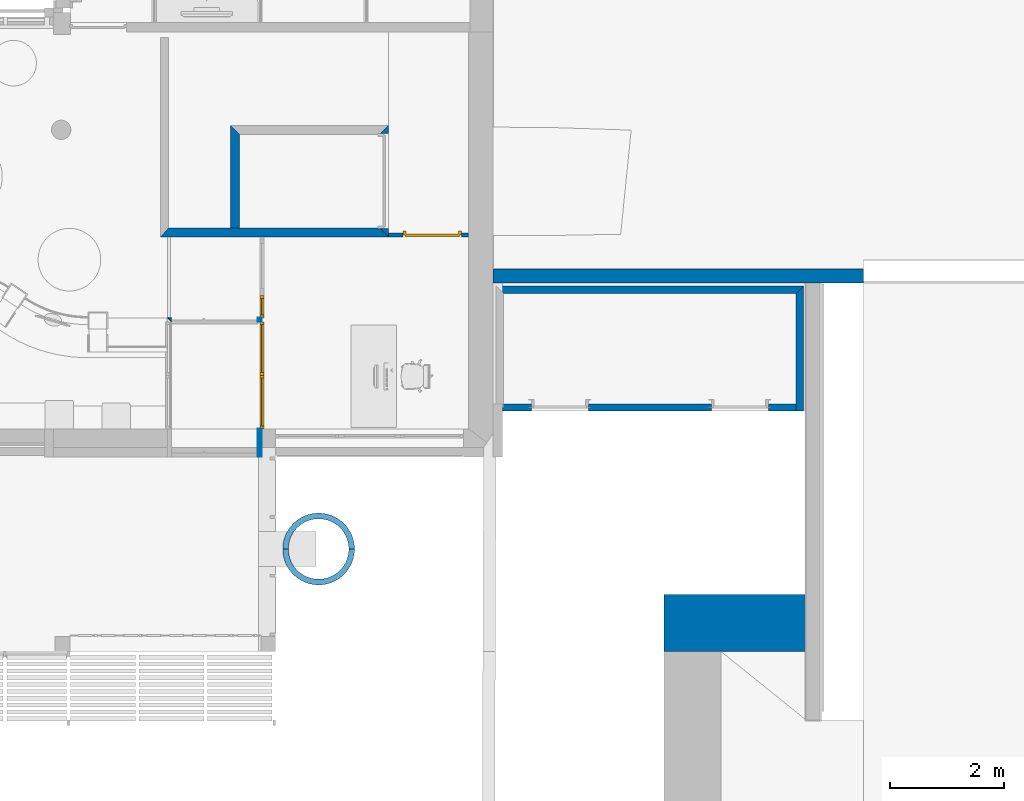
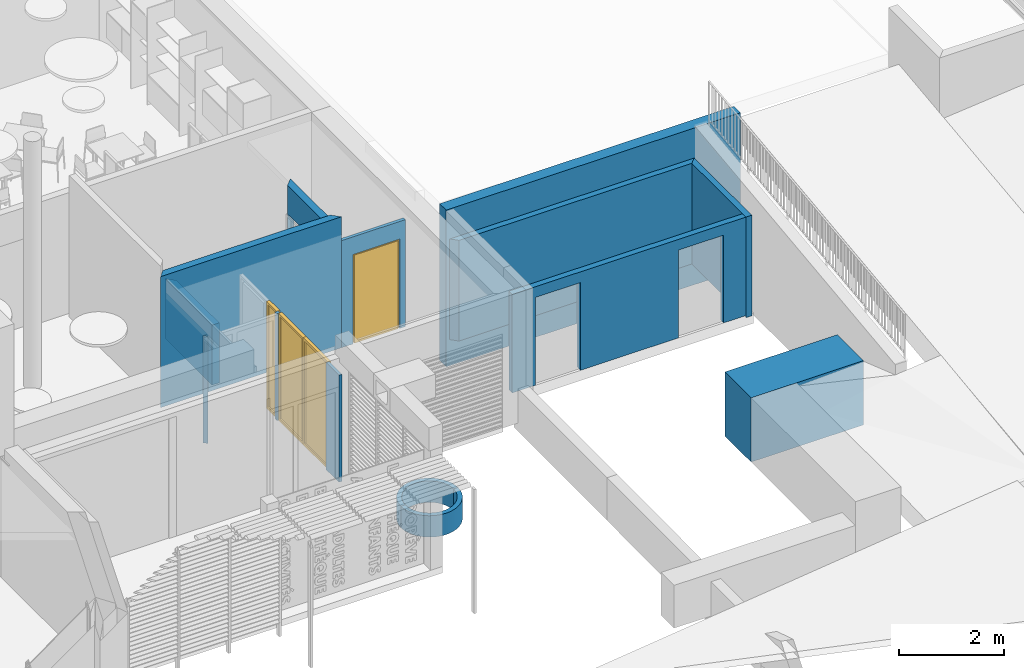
# One storey, part 25 of 64: 13 walls, 3 windows, 1 door, 8 openings.
"""IFC2X3 building model written with IfcOpenShell, lengths in metres."""

from ifc_helpers import new_model, entity, si_unit, converted_unit, derived_unit, direction, frame, frame_2d, origin, origin_2d_with_axis, place, context, subcontext, project, spatial, polyline, circle_curve, parameter, trimmed, segment, composite_curve, rectangle, outline, extrude, faceted_brep, source, transform, mapped, material, material_list, layer, layer_set, layer_usage, type_object, type_shapes, element, fill, save


model = new_model("IFC2X3")

# Units and contexts
model_context = context("Model", 3, precision=1e-05, world=origin(), true_north=direction((6.123031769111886e-17, 1.0)))
body_context = subcontext(model_context, "Body", "Model", "MODEL_VIEW")
ifc_project = project(units=[si_unit("LENGTHUNIT", "METRE"), si_unit("AREAUNIT", "SQUARE_METRE"), si_unit("VOLUMEUNIT", "CUBIC_METRE"), converted_unit("PLANEANGLEUNIT", "DEGREE", entity("IfcRatioMeasure", 0.017453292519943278), si_unit("PLANEANGLEUNIT", "RADIAN"), dimensions=[0, 0, 0, 0, 0, 0, 0]), si_unit("MASSUNIT", "GRAM", prefix="KILO"), derived_unit("MASSDENSITYUNIT", [(si_unit("MASSUNIT", "GRAM", prefix="KILO"), 1), (si_unit("LENGTHUNIT", "METRE"), -3)]), derived_unit("MOMENTOFINERTIAUNIT", [(si_unit("LENGTHUNIT", "METRE"), 4)]), si_unit("TIMEUNIT", "SECOND"), si_unit("FREQUENCYUNIT", "HERTZ"), si_unit("THERMODYNAMICTEMPERATUREUNIT", "DEGREE_CELSIUS"), derived_unit("THERMALTRANSMITTANCEUNIT", [(si_unit("MASSUNIT", "GRAM", prefix="KILO"), 1), (si_unit("THERMODYNAMICTEMPERATUREUNIT", "KELVIN"), -1), (si_unit("TIMEUNIT", "SECOND"), -3)]), derived_unit("THERMALCONDUCTANCEUNIT", [(si_unit("MASSUNIT", "GRAM", prefix="KILO"), 1), (si_unit("LENGTHUNIT", "METRE"), 1), (si_unit("THERMODYNAMICTEMPERATUREUNIT", "KELVIN"), -1), (si_unit("TIMEUNIT", "SECOND"), -3)]), derived_unit("VOLUMETRICFLOWRATEUNIT", [(si_unit("LENGTHUNIT", "METRE"), 3), (si_unit("TIMEUNIT", "SECOND"), -1)]), derived_unit("MASSFLOWRATEUNIT", [(si_unit("MASSUNIT", "GRAM", prefix="KILO"), 1), (si_unit("TIMEUNIT", "SECOND"), -1)]), derived_unit("ROTATIONALFREQUENCYUNIT", [(si_unit("TIMEUNIT", "SECOND"), -1)]), si_unit("ELECTRICCURRENTUNIT", "AMPERE"), si_unit("ELECTRICVOLTAGEUNIT", "VOLT"), si_unit("POWERUNIT", "WATT"), si_unit("FORCEUNIT", "NEWTON", prefix="KILO"), si_unit("ILLUMINANCEUNIT", "LUX"), si_unit("LUMINOUSFLUXUNIT", "LUMEN"), si_unit("LUMINOUSINTENSITYUNIT", "CANDELA"), derived_unit("USERDEFINED", [(si_unit("MASSUNIT", "GRAM", prefix="KILO"), -1), (si_unit("LENGTHUNIT", "METRE"), -2), (si_unit("TIMEUNIT", "SECOND"), 3), (si_unit("LUMINOUSFLUXUNIT", "LUMEN"), 1)]), derived_unit("USERDEFINED", [(si_unit("MASSUNIT", "GRAM", prefix="KILO"), 1), (si_unit("LENGTHUNIT", "METRE"), 3), (si_unit("TIMEUNIT", "SECOND"), -3), (si_unit("ELECTRICCURRENTUNIT", "AMPERE"), -2)]), derived_unit("USERDEFINED", [(si_unit("LENGTHUNIT", "METRE"), 2), (si_unit("TIMEUNIT", "SECOND"), -2)]), derived_unit("SOUNDPOWERUNIT", [(si_unit("MASSUNIT", "GRAM", prefix="KILO"), 1), (si_unit("LENGTHUNIT", "METRE"), 2), (si_unit("TIMEUNIT", "SECOND"), -3)]), derived_unit("SOUNDPRESSUREUNIT", [(si_unit("MASSUNIT", "GRAM", prefix="KILO"), 1), (si_unit("LENGTHUNIT", "METRE"), -1), (si_unit("TIMEUNIT", "SECOND"), -2)]), derived_unit("LINEARVELOCITYUNIT", [(si_unit("LENGTHUNIT", "METRE"), 1), (si_unit("TIMEUNIT", "SECOND"), -1)]), si_unit("PRESSUREUNIT", "PASCAL"), derived_unit("USERDEFINED", [(si_unit("LENGTHUNIT", "METRE"), -2), (si_unit("MASSUNIT", "GRAM", prefix="KILO"), 1), (si_unit("TIMEUNIT", "SECOND"), -2)]), derived_unit("LINEARFORCEUNIT", [(si_unit("MASSUNIT", "GRAM", prefix="KILO"), 1), (si_unit("LENGTHUNIT", "METRE"), 1), (si_unit("TIMEUNIT", "SECOND"), -2), (si_unit("LENGTHUNIT", "METRE"), -1)]), derived_unit("PLANARFORCEUNIT", [(si_unit("MASSUNIT", "GRAM", prefix="KILO"), 1), (si_unit("LENGTHUNIT", "METRE"), 1), (si_unit("TIMEUNIT", "SECOND"), -2), (si_unit("LENGTHUNIT", "METRE"), -2)]), derived_unit("SPECIFICHEATCAPACITYUNIT", [(si_unit("LENGTHUNIT", "METRE"), 2), (si_unit("TIMEUNIT", "SECOND"), -2), (si_unit("THERMODYNAMICTEMPERATUREUNIT", "KELVIN"), -1)]), derived_unit("VAPORPERMEABILITYUNIT", [(si_unit("TIMEUNIT", "SECOND"), 1), (si_unit("LENGTHUNIT", "METRE"), -1)]), derived_unit("DYNAMICVISCOSITYUNIT", [(si_unit("MASSUNIT", "GRAM", prefix="KILO"), 1), (si_unit("LENGTHUNIT", "METRE"), -1), (si_unit("TIMEUNIT", "SECOND"), -1)]), derived_unit("THERMALEXPANSIONCOEFFICIENTUNIT", [(si_unit("THERMODYNAMICTEMPERATUREUNIT", "KELVIN"), -1)])], contexts=[model_context])

# Site, building, storey
site_placement = place(None, origin())
site = spatial("IfcSite", under=ifc_project, at=site_placement, Name="Default", CompositionType="ELEMENT")
building_placement = place(site_placement, origin())
building = spatial("IfcBuilding", under=site, at=building_placement, CompositionType="ELEMENT")
storey_placement = place(building_placement, origin())
storey = spatial("IfcBuildingStorey", under=building, at=storey_placement, Name="REZ-DE-CHAUSSÉE", CompositionType="ELEMENT", Elevation=0.0)

# Walls
ifc_material_1 = material(Name="Appareillage - Pierre taillé")
ifc_layer_1 = layer(ifc_material_1, 0.16)
ifc_layer_set_1 = layer_set([ifc_layer_1], Name="Mur de base:Struct. - Pierre 160")
ifc_layer_usage_1 = layer_usage(ifc_layer_set_1, "AXIS2", "NEGATIVE", 0.08)
wall_type_1 = type_object("IfcWallType", Name="Mur de base:Struct. - Pierre 160", PredefinedType="STANDARD", material=ifc_layer_set_1)
wall_1_placement = place(storey_placement, frame((126.56075228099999, 11.527209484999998, 0.0), z_axis=(0.0, 0.0, 1.0), x_axis=(-1.0, 0.0, 0.0)))
element("IfcWallStandardCase", 1, at=wall_1_placement, inside=storey, type_object=wall_type_1, material=ifc_layer_usage_1, Name="MurExt-011", ObjectType="Mur de base:Struct. - Pierre 160", context=body_context, shape_type="SweptSolid", body=[
    extrude(outline(polyline([(3.860000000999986, -0.0800000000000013), (4.0, 0.07999999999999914), (0.0, 0.07999999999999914), (0.14500000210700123, -0.06500000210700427), (0.15999999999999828, -0.0800000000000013), (2.610000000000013, -0.0800000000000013), (2.7700000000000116, -0.0800000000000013), (3.860000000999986, -0.0800000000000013)])), origin(), (0.0, 0.0, 1.0), 3.06),
])
wall_2_placement = place(storey_placement, frame((123.87075228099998, 11.607209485, 0.0), z_axis=(0.0, 0.0, 1.0), x_axis=(0.0, 1.0, 0.0)))
element("IfcWallStandardCase", 2, at=wall_2_placement, inside=storey, type_object=wall_type_1, material=ifc_layer_usage_1, Name="MurExt-011", ObjectType="Mur de base:Struct. - Pierre 160", context=body_context, shape_type="SweptSolid", body=[
    extrude(outline(polyline([(1.6400000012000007, -0.07999999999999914), (1.8000000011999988, 0.07999999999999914), (0.0, 0.07999999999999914), (0.0, -0.07999999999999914), (1.6400000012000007, -0.07999999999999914)])), origin(), (0.0, 0.0, 1.0), 1.4),
])

# Wall, opening
wall_3_placement = place(storey_placement, frame((126.480752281, 13.4072094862, 0.0), z_axis=(0.0, 0.0, 1.0), x_axis=(0.0, -1.0, 0.0)))
wall_3 = element("IfcWallStandardCase", 3, at=wall_3_placement, inside=storey, type_object=wall_type_1, material=ifc_layer_usage_1, Name="MurExt-012", ObjectType="Mur de base:Struct. - Pierre 160", context=body_context, shape_type="SweptSolid", body=[
    extrude(outline(polyline([(0.15999999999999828, -0.07999999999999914), (1.800000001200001, -0.07999999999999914), (1.9600000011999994, 0.07999999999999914), (0.0, 0.07999999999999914), (0.15999999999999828, -0.07999999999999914)])), origin(), (0.0, 0.0, 1.0), 2.76),
])
opening_1_placement = place(wall_3_placement, frame((13.4072094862, -126.480752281, 0.0), z_axis=(0.0, 0.0, 1.0), x_axis=(0.0, 1.0, 0.0)))
element("IfcOpeningElement", 4, at=opening_1_placement, cuts=wall_3, Name="MurExt-012", ObjectType="Opening", context=body_context, shape_type="SweptSolid", body=[
    extrude(rectangle(XDim=2.09, YDim=1.6700000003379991, at=frame_2d((0.0, 0.0), x_axis=(0.0, 1.0))), frame((126.31755228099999, 12.427209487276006, 1.045), z_axis=(1.0, 0.0, 0.0), x_axis=(0.0, -1.0, 0.0)), (0.0, 0.0, 1.0), 0.3263999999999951),
])

# Wall, opening, door
ifc_material_2 = material(Name="Plâtre - Plaques de plâtre")
ifc_layer_2 = layer(ifc_material_2, 0.013)
ifc_material_3 = material(Name="Isolation - Fibre de verre")
ifc_layer_3 = layer(ifc_material_3, 0.044)
ifc_layer_4 = layer(ifc_material_2, 0.013)
ifc_layer_set_2 = layer_set([ifc_layer_2, ifc_layer_3, ifc_layer_4], Name="Mur de base:ABA cloison 7cm 70")
ifc_layer_usage_2 = layer_usage(ifc_layer_set_2, "AXIS2", "NEGATIVE", 0.034999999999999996)
wall_type_2 = type_object("IfcWallType", Name="Mur de base:ABA cloison 7cm 70", PredefinedType="STANDARD", material=ifc_layer_set_2)
wall_4_placement = place(storey_placement, frame((127.97075227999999, 11.482209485, 0.0), z_axis=(0.0, 0.0, 1.0), x_axis=(-1.0, 0.0, 0.0)))
wall_4 = element("IfcWallStandardCase", 5, at=wall_4_placement, inside=storey, type_object=wall_type_2, material=ifc_layer_usage_2, Name="MurExt-025", ObjectType="Mur de base:ABA cloison 7cm 70", context=body_context, shape_type="SweptSolid", body=[
    extrude(rectangle(XDim=1.4099999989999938, YDim=0.07000000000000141, at=frame_2d((0.7049999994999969, 0.0), x_axis=(-1.0, 0.0))), origin(), (0.0, 0.0, 1.0), 2.4999999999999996),
])
opening_2_placement = place(wall_4_placement, frame((127.97075227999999, 11.482209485, 0.0), z_axis=(0.0, 0.0, 1.0), x_axis=(-1.0, 0.0, 0.0)))
opening_2 = element("IfcOpeningElement", 6, at=opening_2_placement, cuts=wall_4, Name="MurExt-025", ObjectType="Opening", context=body_context, shape_type="SweptSolid", body=[
    extrude(rectangle(XDim=2.09, YDim=1.0300000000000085, at=frame_2d((0.0, 0.0), x_axis=(0.0, 1.0))), frame((127.33075228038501, 11.553609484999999, 1.045), z_axis=(0.0, -1.0, 0.0), x_axis=(-1.0, 0.0, 0.0)), (0.0, 0.0, 1.0), 0.14279999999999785),
])
ifc_material_4 = material(Name="Peinture - Gris clair")
door_style = type_object("IfcDoorStyle", Name="Por-004", ConstructionType="NOTDEFINED", OperationType="SINGLE_SWING_LEFT", ParameterTakesPrecedence=False, Sizeable=False, material=ifc_material_4)
shared_shape_1 = source(origin(), body_context, "Body", "Brep", [
    faceted_brep([(0.0, -0.0714, 0.0), (0.0, -0.0714, 2.09), (1.03, -0.0714, 2.09), (1.03, -0.0714, 0.0), (0.995, -0.0714, 0.0), (0.995, -0.0714, 2.055), (0.03500000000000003, -0.0714, 2.055), (0.03500000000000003, -0.0714, 0.0), (0.0, -0.1414, 0.0), (0.0, -0.1414, 2.09), (1.03, -0.1414, 2.09), (1.03, -0.1414, 0.0), (0.98, -0.1414, 0.0), (0.98, -0.0864, 0.0), (0.995, -0.0864, 0.0), (0.995, -0.0864, 2.055), (0.03500000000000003, -0.0864, 2.055), (0.03500000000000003, -0.0864, 0.0), (0.05, -0.0864, 0.0), (0.05, -0.1414, 0.0), (0.98, -0.1414, 2.04), (0.05, -0.1414, 2.04), (0.98, -0.0864, 2.04), (0.05, -0.0864, 2.04), (0.03500000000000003, -0.046400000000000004, 0.0), (0.995, -0.046400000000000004, 0.0), (0.03500000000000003, -0.046400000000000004, 2.055), (0.995, -0.046400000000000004, 2.055)], [[[0, 1, 2, 3, 4, 5, 6, 7]], [[8, 9, 1, 0]], [[9, 10, 2, 1]], [[10, 11, 3, 2]], [[3, 11, 12, 13, 14, 4]], [[5, 4, 14, 15]], [[6, 5, 15, 16]], [[7, 6, 16, 17]], [[0, 7, 17, 18, 19, 8]], [[19, 8, 9, 10, 11, 12, 20, 21]], [[22, 13, 12, 20]], [[17, 16, 15, 14, 13, 22, 23, 18]], [[18, 23, 21, 19]], [[23, 22, 20, 21]], [[24, 25, 14, 17]], [[24, 26, 27, 25]], [[25, 27, 15, 14]], [[17, 14, 15, 16]], [[26, 24, 17, 16]], [[27, 26, 16, 15]]]),
])
type_shapes(door_style, [shared_shape_1])
door_placement = place(opening_2_placement, frame((127.84575228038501, 11.410809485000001, 0.0), z_axis=(0.0, 0.0, 1.0), x_axis=(-1.0, 0.0, 0.0)))
door = element("IfcDoor", 7, at=door_placement, inside=storey, type_object=door_style, material=ifc_material_4, Name="Por-004 25692:Por-004 25692", ObjectType="Por-004 25692:Por-004 25692", OverallHeight=2.09, OverallWidth=1.0300000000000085, context=body_context, shape_type="MappedRepresentation", body=[
    mapped(shared_shape_1, transform((0.0, 0.0, 0.0), scale=1.0)),
])
fill(opening_2, door)

# Wall, openings, windows
wall_5_placement = place(storey_placement, frame((124.30575228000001, 10.027209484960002, 0.0), z_axis=(0.0, 0.0, 1.0), x_axis=(0.0, -1.0, 0.0)))
wall_5 = element("IfcWallStandardCase", 8, at=wall_5_placement, inside=storey, type_object=wall_type_2, material=ifc_layer_usage_2, Name="MurExt-025", ObjectType="Mur de base:ABA cloison 7cm 70", context=body_context, shape_type="SweptSolid", body=[
    extrude(rectangle(XDim=0.06999999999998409, YDim=3.8600000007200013, at=frame_2d((0.5100000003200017, 0.0), x_axis=(0.0, -1.0))), origin(), (0.0, 0.0, 1.0), 2.4999999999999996),
])
opening_3_placement = place(wall_5_placement, frame((10.027209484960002, -124.30575228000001, 0.0), z_axis=(0.0, 0.0, 1.0), x_axis=(0.0, 1.0, 0.0)))
opening_3 = element("IfcOpeningElement", 9, at=opening_3_placement, cuts=wall_5, Name="MurExt-025", ObjectType="Opening", context=body_context, shape_type="SweptSolid", body=[
    extrude(rectangle(XDim=2.4999999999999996, YDim=0.9399999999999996, at=frame_2d((-5.551115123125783e-16, 0.0), x_axis=(0.0, 1.0))), frame((124.23505228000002, 8.54720948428, 1.2499999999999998), z_axis=(1.0, 0.0, 0.0), x_axis=(0.0, 1.0, 0.0)), (0.0, 0.0, 1.0), 0.14139999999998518),
])
opening_4_placement = place(wall_5_placement, frame((10.027209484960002, -124.30575228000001, 0.0), z_axis=(0.0, 0.0, 1.0), x_axis=(0.0, 1.0, 0.0)))
opening_4 = element("IfcOpeningElement", 10, at=opening_4_placement, cuts=wall_5, Name="MurExt-025", ObjectType="Opening", context=body_context, shape_type="SweptSolid", body=[
    extrude(rectangle(XDim=2.4999999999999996, YDim=0.9399999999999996, at=frame_2d((-5.551115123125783e-16, 0.0), x_axis=(0.0, 1.0))), frame((124.23505228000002, 9.487209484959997, 1.2499999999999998), z_axis=(1.0, 0.0, 0.0), x_axis=(0.0, 1.0, 0.0)), (0.0, 0.0, 1.0), 0.14139999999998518),
])
opening_5_placement = place(wall_5_placement, frame((10.027209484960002, -124.30575228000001, 0.0), z_axis=(0.0, 0.0, 1.0), x_axis=(0.0, 1.0, 0.0)))
element("IfcOpeningElement", 11, at=opening_5_placement, cuts=wall_5, Name="MurExt-025", ObjectType="Opening", context=body_context, shape_type="SweptSolid", body=[
    extrude(rectangle(XDim=2.4999999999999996, YDim=1.0299999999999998, at=frame_2d((0.0, 0.0), x_axis=(0.0, 1.0))), frame((124.23505228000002, 10.93220948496, 1.2499999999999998), z_axis=(1.0, 0.0, 0.0), x_axis=(0.0, 1.0, 0.0)), (0.0, 0.0, 1.0), 0.14139999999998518),
])
opening_6_placement = place(wall_5_placement, frame((10.027209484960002, -124.30575228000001, 0.0), z_axis=(0.0, 0.0, 1.0), x_axis=(0.0, 1.0, 0.0)))
opening_6 = element("IfcOpeningElement", 12, at=opening_6_placement, cuts=wall_5, Name="MurExt-025", ObjectType="Opening", context=body_context, shape_type="SweptSolid", body=[
    extrude(rectangle(XDim=2.4999999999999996, YDim=0.3900000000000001, at=frame_2d((-1.0824674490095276e-15, 0.0), x_axis=(0.0, 1.0))), frame((124.23505228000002, 10.22220948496, 1.2499999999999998), z_axis=(1.0, 0.0, 0.0), x_axis=(0.0, 1.0, 0.0)), (0.0, 0.0, 1.0), 0.14139999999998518),
])
ifc_material_5 = material(Name="Transp. - Verre clair (rapide)")
ifc_material_6 = material(Name="Peinture - Anthracite")
ifc_material_list = material_list([ifc_material_5, ifc_material_6])
window_style_1 = type_object("IfcWindowStyle", Name="Fen-007", ConstructionType="NOTDEFINED", OperationType="NOTDEFINED", ParameterTakesPrecedence=False, Sizeable=False, material=ifc_material_list)
shared_shape_2 = source(origin(), body_context, "Body", "SweptSolid", [
    extrude(rectangle(XDim=0.8399999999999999, YDim=0.010000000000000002, at=frame_2d((0.0, -4.336808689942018e-18), x_axis=(1.0, 0.0))), frame((0.47, 0.03570000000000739, 0.0601)), (0.0, 0.0, 1.0), 2.3899000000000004),
    extrude(outline(polyline([(-1.2499999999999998, -0.47), (1.2499999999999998, -0.47), (1.2499999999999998, 0.47), (-1.2499999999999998, 0.47), (-1.2499999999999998, -0.47)]), holes=[polyline([(1.1899999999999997, 0.41999999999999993), (1.19, -0.41999999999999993), (-1.2000000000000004, -0.41999999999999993), (-1.2000000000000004, 0.41999999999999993), (1.1899999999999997, 0.41999999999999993)])]), frame((0.47, 0.0007000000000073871, 1.2499999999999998), z_axis=(0.0, 1.0, 0.0), x_axis=(0.0, 0.0, -1.0)), (0.0, 0.0, 1.0), 0.07),
])
type_shapes(window_style_1, [shared_shape_2])
window_1_placement = place(opening_3_placement, frame((124.37645228, 8.077209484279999, 0.0), z_axis=(0.0, 0.0, 1.0), x_axis=(0.0, 1.0, 0.0)))
window_1 = element("IfcWindow", 13, at=window_1_placement, inside=storey, type_object=window_style_1, material=ifc_material_list, Name="Fen-007 27156:Fen-007 27156", ObjectType="Fen-007 27156:Fen-007 27156", OverallHeight=2.4999999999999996, OverallWidth=0.9399999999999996, context=body_context, shape_type="MappedRepresentation", body=[
    mapped(shared_shape_2, transform((0.0, 0.0, 0.0), scale=1.0)),
])
fill(opening_3, window_1)
window_2_placement = place(opening_4_placement, frame((124.37645228, 9.017209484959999, 0.0), z_axis=(0.0, 0.0, 1.0), x_axis=(0.0, 1.0, 0.0)))
window_2 = element("IfcWindow", 14, at=window_2_placement, inside=storey, type_object=window_style_1, material=ifc_material_list, Name="Fen-007 27156:Fen-007 27156", ObjectType="Fen-007 27156:Fen-007 27156", OverallHeight=2.4999999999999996, OverallWidth=0.9399999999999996, context=body_context, shape_type="MappedRepresentation", body=[
    mapped(shared_shape_2, transform((0.0, 0.0, 0.0), scale=1.0)),
])
fill(opening_4, window_2)
window_style_2 = type_object("IfcWindowStyle", Name="Fen-007", ConstructionType="NOTDEFINED", OperationType="NOTDEFINED", ParameterTakesPrecedence=False, Sizeable=False, material=ifc_material_list)
shared_shape_3 = source(origin(), body_context, "Body", "SweptSolid", [
    extrude(rectangle(XDim=0.29, YDim=0.010000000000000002, at=origin_2d_with_axis()), frame((0.19499999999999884, 0.0357, 0.0601)), (0.0, 0.0, 1.0), 2.3899000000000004),
    extrude(outline(polyline([(-1.2499999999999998, -0.195), (1.2499999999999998, -0.195), (1.2499999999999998, 0.195), (-1.2499999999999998, 0.195), (-1.2499999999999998, -0.195)]), holes=[polyline([(1.1899999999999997, 0.145), (1.19, -0.145), (-1.2000000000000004, -0.145), (-1.2000000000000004, 0.145), (1.1899999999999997, 0.145)])]), frame((0.19499999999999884, 0.0007000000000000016, 1.2499999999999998), z_axis=(0.0, 1.0, 0.0), x_axis=(0.0, 0.0, -1.0)), (0.0, 0.0, 1.0), 0.07),
])
type_shapes(window_style_2, [shared_shape_3])
window_3_placement = place(opening_6_placement, frame((124.37645228, 10.027209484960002, 0.0), z_axis=(0.0, 0.0, 1.0), x_axis=(0.0, 1.0, 0.0)))
window_3 = element("IfcWindow", 15, at=window_3_placement, inside=storey, type_object=window_style_2, material=ifc_material_list, Name="Fen-007 27808:Fen-007 27808", ObjectType="Fen-007 27808:Fen-007 27808", OverallHeight=2.4999999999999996, OverallWidth=0.3900000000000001, context=body_context, shape_type="MappedRepresentation", body=[
    mapped(shared_shape_3, transform((0.0, 0.0, 0.0), scale=1.0)),
])
fill(opening_6, window_3)

# Walls
wall_6_placement = place(storey_placement, frame((122.68075228, 9.992209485, 0.0)))
element("IfcWallStandardCase", 16, at=wall_6_placement, inside=storey, type_object=wall_type_2, material=ifc_layer_usage_2, Name="MurExt-022", ObjectType="Mur de base:ABA cloison 7cm 70", context=body_context, shape_type="SweptSolid", body=[
    extrude(outline(polyline([(-0.04357499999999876, -0.01749999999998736), (-0.009275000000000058, -0.01749999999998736), (0.02642500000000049, -0.01749999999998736), (0.02642500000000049, 0.052500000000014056), (-0.04357499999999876, -0.01749999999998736)])), frame((0.052500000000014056, 0.008575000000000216, 0.0), z_axis=(0.0, 0.0, 1.0), x_axis=(0.0, 1.0, 0.0)), (0.0, 0.0, 1.0), 2.4999999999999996),
])
ifc_layer_5 = layer(ifc_material_1, 0.0992125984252)
ifc_layer_set_3 = layer_set([ifc_layer_5], Name="Mur de base:Struct. - Pierre 99")
ifc_layer_usage_3 = layer_usage(ifc_layer_set_3, "AXIS2", "POSITIVE", -0.0496062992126)
wall_type_3 = type_object("IfcWallType", Name="Mur de base:Struct. - Pierre 99", PredefinedType="STANDARD", material=ifc_layer_set_3)
wall_7_placement = place(storey_placement, frame((124.7553585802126, 5.9672094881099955, -0.23)))
element("IfcWallStandardCase", 17, at=wall_7_placement, inside=storey, type_object=wall_type_3, material=ifc_layer_usage_3, Name="MurExt-003", ObjectType="Mur de base:Struct. - Pierre 99", context=body_context, shape_type="SweptSolid", body=[
    extrude(outline(composite_curve([segment(trimmed(circle_curve(frame_2d((0.580393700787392, 0.0), x_axis=(1.0, 0.0)), 0.63), [parameter(0.0)], [parameter(180.00000000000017)], True, "PARAMETER"), True, "CONTINUOUS"), segment(polyline([(-0.049606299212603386, 0.0), (0.04960629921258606, 0.0)]), True, "CONTINUOUS"), segment(trimmed(circle_curve(frame_2d((0.580393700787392, 0.0), x_axis=(1.0, 0.0)), 0.5307874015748), [parameter(0.0)], [parameter(180.00000000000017)], True, "PARAMETER"), False, "CONTINUOUS"), segment(polyline([(1.111181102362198, 0.0), (1.2103937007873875, 0.0)]), True, "CONTINUOUS")], self_intersect=False)), origin(), (0.0, 0.0, 1.0), 0.49999999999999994),
])
wall_8_placement = place(storey_placement, frame((125.91614598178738, 5.967209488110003, -0.23), z_axis=(0.0, 0.0, 1.0), x_axis=(-1.0, 0.0, 0.0)))
element("IfcWallStandardCase", 18, at=wall_8_placement, inside=storey, type_object=wall_type_3, material=ifc_layer_usage_3, Name="MurExt-004", ObjectType="Mur de base:Struct. - Pierre 99", context=body_context, shape_type="SweptSolid", body=[
    extrude(outline(composite_curve([segment(trimmed(circle_curve(frame_2d((0.580393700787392, 0.0), x_axis=(1.0, 0.0)), 0.63), [parameter(0.0)], [parameter(180.00000000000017)], True, "PARAMETER"), True, "CONTINUOUS"), segment(polyline([(-0.049606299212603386, 0.0), (0.04960629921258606, 0.0)]), True, "CONTINUOUS"), segment(trimmed(circle_curve(frame_2d((0.580393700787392, 0.0), x_axis=(1.0, 0.0)), 0.5307874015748), [parameter(0.0)], [parameter(180.00000000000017)], True, "PARAMETER"), False, "CONTINUOUS"), segment(polyline([(1.111181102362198, 0.0), (1.2103937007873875, 0.0)]), True, "CONTINUOUS")], self_intersect=False)), origin(), (0.0, 0.0, 1.0), 0.49999999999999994),
])
ifc_material_7 = material(Name="Peinture - Beige sable")
ifc_layer_6 = layer(ifc_material_7, 0.9999999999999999)
ifc_layer_set_4 = layer_set([ifc_layer_6], Name="Mur de base:Finition ext - Fibre-ciment 1000")
ifc_layer_usage_4 = layer_usage(ifc_layer_set_4, "AXIS2", "NEGATIVE", 0.49999999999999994)
wall_type_4 = type_object("IfcWallType", Name="Mur de base:Finition ext - Fibre-ciment 1000", PredefinedType="STANDARD", material=ifc_layer_set_4)
wall_9_placement = place(storey_placement, frame((131.400752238, 4.66720952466, 0.05)))
element("IfcWallStandardCase", 19, at=wall_9_placement, inside=storey, type_object=wall_type_4, material=ifc_layer_usage_4, Name="MurExt-021", ObjectType="Mur de base:Finition ext - Fibre-ciment 1000", context=body_context, shape_type="SweptSolid", body=[
    extrude(rectangle(XDim=2.4800000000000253, YDim=1.0, at=frame_2d((1.2400000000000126, 0.0), x_axis=(-1.0, 0.0))), origin(), (0.0, 0.0, 1.0), 1.4999999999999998),
])
ifc_material_8 = material(Name="Béton - Parpaing (Blocs)")
ifc_layer_7 = layer(ifc_material_8, 0.24999999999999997)
ifc_layer_set_5 = layer_set([ifc_layer_7], Name="Mur de base:Struct. - Parpaing béton 250")
ifc_layer_usage_5 = layer_usage(ifc_layer_set_5, "AXIS2", "NEGATIVE", 0.12499999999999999)
wall_type_5 = type_object("IfcWallType", Name="Mur de base:Struct. - Parpaing béton 250", PredefinedType="STANDARD", material=ifc_layer_set_5)
wall_10_placement = place(storey_placement, frame((134.900752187, 10.762209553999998, -0.6000000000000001), z_axis=(0.0, 0.0, 1.0), x_axis=(-1.0, 0.0, 0.0)))
element("IfcWallStandardCase", 20, at=wall_10_placement, inside=storey, type_object=wall_type_5, material=ifc_layer_usage_5, Name="MurExt-021", ObjectType="Mur de base:Struct. - Parpaing béton 250", context=body_context, shape_type="SweptSolid", body=[
    extrude(rectangle(XDim=6.499999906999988, YDim=0.24999999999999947, at=frame_2d((3.249999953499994, 0.0), x_axis=(-1.0, 0.0))), origin(), (0.0, 0.0, 1.0), 3.66),
])
ifc_layer_8 = layer(ifc_material_8, 0.12999999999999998)
ifc_layer_set_6 = layer_set([ifc_layer_8], Name="Mur de base:Struct. - Parpaing béton 130")
ifc_layer_usage_6 = layer_usage(ifc_layer_set_6, "AXIS2", "NEGATIVE", 0.06499999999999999)
wall_type_6 = type_object("IfcWallType", Name="Mur de base:Struct. - Parpaing béton 130", PredefinedType="STANDARD", material=ifc_layer_set_6)
wall_11_placement = place(storey_placement, frame((133.78575227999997, 10.587209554, 0.04999999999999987), z_axis=(0.0, 0.0, 1.0), x_axis=(0.0, -1.0, 0.0)))
element("IfcWallStandardCase", 21, at=wall_11_placement, inside=storey, type_object=wall_type_6, material=ifc_layer_usage_6, Name="MurExt-021", ObjectType="Mur de base:Struct. - Parpaing béton 130", context=body_context, shape_type="SweptSolid", body=[
    extrude(outline(polyline([(2.2, -0.06500000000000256), (2.2, 0.06500000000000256), (0.0, 0.06500000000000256), (0.13000000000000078, -0.06500000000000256), (2.2, -0.06500000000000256)])), origin(), (0.0, 0.0, 1.0), 2.3499999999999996),
])
wall_12_placement = place(storey_placement, frame((128.45075228, 10.522209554, 0.04999999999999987)))
element("IfcWallStandardCase", 22, at=wall_12_placement, inside=storey, type_object=wall_type_6, material=ifc_layer_usage_6, Name="MurExt-023", ObjectType="Mur de base:Struct. - Parpaing béton 130", context=body_context, shape_type="SweptSolid", body=[
    extrude(outline(polyline([(5.269999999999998, -0.06500000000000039), (5.400000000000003, 0.06500000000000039), (0.0, 0.06500000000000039), (0.1300000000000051, -0.06500000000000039), (5.269999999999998, -0.06500000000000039)])), origin(), (0.0, 0.0, 1.0), 2.3499999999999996),
])

# Wall, openings
wall_13_placement = place(storey_placement, frame((133.72075227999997, 8.452209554, 0.1), z_axis=(0.0, 0.0, 1.0), x_axis=(-1.0, 0.0, 0.0)))
wall_13 = element("IfcWallStandardCase", 23, at=wall_13_placement, inside=storey, type_object=wall_type_6, material=ifc_layer_usage_6, Name="MurExt-021", ObjectType="Mur de base:Struct. - Parpaing béton 130", context=body_context, shape_type="SweptSolid", body=[
    extrude(rectangle(XDim=5.159999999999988, YDim=0.13000000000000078, at=frame_2d((2.579999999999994, 0.0), x_axis=(-1.0, 0.0))), origin(), (0.0, 0.0, 1.0), 2.3),
])
opening_7_placement = place(wall_13_placement, frame((133.72075227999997, 8.452209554, -0.1), z_axis=(0.0, 0.0, 1.0), x_axis=(-1.0, 0.0, 0.0)))
element("IfcOpeningElement", 24, at=opening_7_placement, cuts=wall_13, Name="MurExt-021", ObjectType="Opening", context=body_context, shape_type="SweptSolid", body=[
    extrude(rectangle(XDim=2.05, YDim=0.999999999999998, at=frame_2d((8.68749516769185e-15, 0.0), x_axis=(0.0, 1.0))), frame((132.73075228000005, 8.584809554, 1.1249999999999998), z_axis=(0.0, -1.0, 0.0), x_axis=(-1.0, 0.0, 0.0)), (0.0, 0.0, 1.0), 0.2652000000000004),
])
opening_8_placement = place(wall_13_placement, frame((133.72075227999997, 8.452209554, -0.1), z_axis=(0.0, 0.0, 1.0), x_axis=(-1.0, 0.0, 0.0)))
element("IfcOpeningElement", 25, at=opening_8_placement, cuts=wall_13, Name="MurExt-021", ObjectType="Opening", context=body_context, shape_type="SweptSolid", body=[
    extrude(rectangle(XDim=2.05, YDim=0.999999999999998, at=frame_2d((0.0, -8.68749516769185e-15), x_axis=(1.0, 0.0))), frame((129.57075228, 8.584809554, 1.1249999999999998), z_axis=(0.0, -1.0, 0.0), x_axis=(0.0, 0.0, 1.0)), (0.0, 0.0, 1.0), 0.2652000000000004),
])

save(model, "model.ifc")
